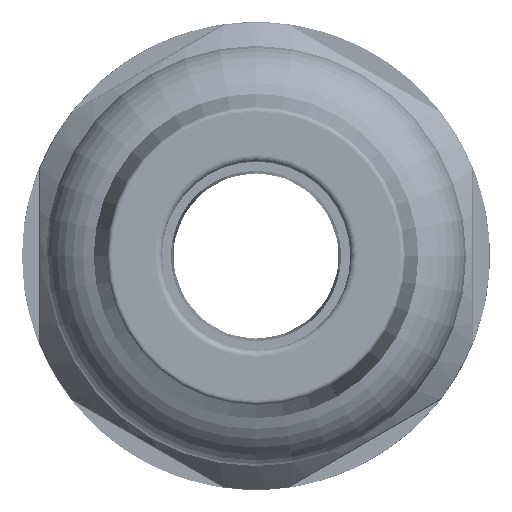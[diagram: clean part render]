
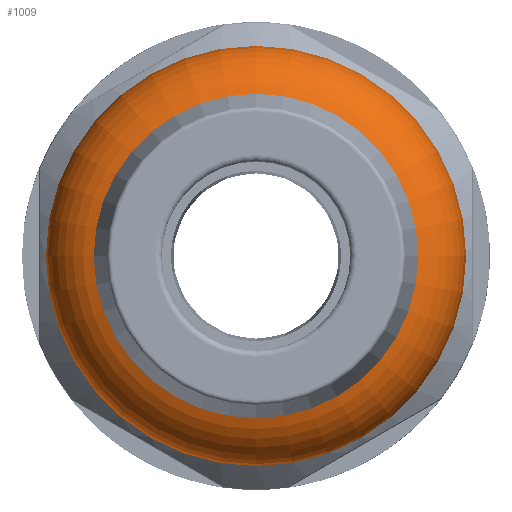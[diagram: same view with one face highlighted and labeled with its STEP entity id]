
A CAD part, left-side view. The second image highlights one B-rep face of the part: STEP entity #1009.
In plain terms, the highlighted toroidal (fillet/blend) face has major radius 6.249 mm and minor radius 3.001 mm.
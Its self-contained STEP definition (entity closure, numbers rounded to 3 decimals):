
#131=TOROIDAL_SURFACE('',#7421,6.249,3.001);
#1009=ADVANCED_FACE('',(#1643,#1644),#131,.T.);
#1643=FACE_BOUND('',#1983,.T.);
#1644=FACE_BOUND('',#1984,.T.);
#1983=EDGE_LOOP('',(#3812));
#1984=EDGE_LOOP('',(#3813));
#2300=CIRCLE('',#7418,9.25);
#2301=CIRCLE('',#7420,7.142);
#3812=ORIENTED_EDGE('',*,*,#5825,.T.);
#3813=ORIENTED_EDGE('',*,*,#5824,.F.);
#4921=VERTEX_POINT('',#20593);
#4922=VERTEX_POINT('',#20596);
#5824=EDGE_CURVE('',#4921,#4921,#2300,.T.);
#5825=EDGE_CURVE('',#4922,#4922,#2301,.T.);
#7418=AXIS2_PLACEMENT_3D('',#20592,#8772,#8773);
#7420=AXIS2_PLACEMENT_3D('',#20595,#8776,#8777);
#7421=AXIS2_PLACEMENT_3D('',#20597,#8778,#8779);
#8772=DIRECTION('',(1.,0.,0.));
#8773=DIRECTION('',(0.,0.866,0.5));
#8776=DIRECTION('',(1.,0.,0.));
#8777=DIRECTION('',(0.,0.866,0.5));
#8778=DIRECTION('',(1.,0.,0.));
#8779=DIRECTION('',(0.,0.866,0.5));
#20592=CARTESIAN_POINT('',(-28.3,0.,0.));
#20593=CARTESIAN_POINT('',(-28.3,8.011,4.625));
#20595=CARTESIAN_POINT('',(-31.165,0.,0.));
#20596=CARTESIAN_POINT('',(-31.165,6.185,3.571));
#20597=CARTESIAN_POINT('',(-28.3,0.,0.));
